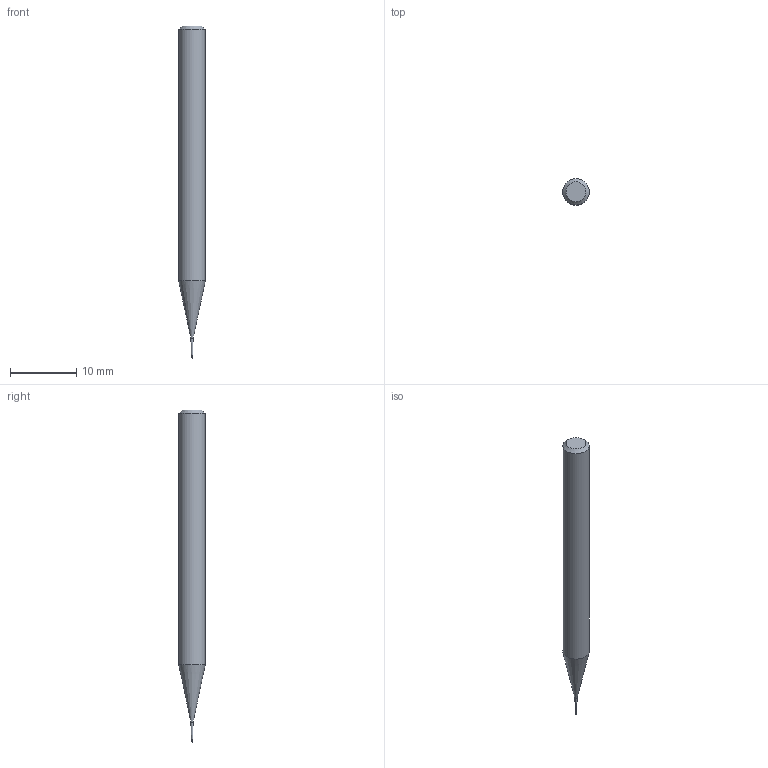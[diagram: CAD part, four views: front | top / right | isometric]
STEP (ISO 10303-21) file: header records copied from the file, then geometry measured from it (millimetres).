
FILE_DESCRIPTION((''),'2;1');
FILE_NAME('C:\Users\nsx150\AppData\Local\Temp\Mastercam 2021\SNAKH10GOD\TEMP.step','2021-10-21T13:30:37',(''),(''),'STEP Write','Mastercam 2021 ... CNC Software, Inc.','');
FILE_SCHEMA(('AUTOMOTIVE_DESIGN'));
Length unit declared in the file: millimetre
Products named in the file (1): None
Bounding box: 4 x 4 x 50 mm (x, y, z)
Volume: 520.5 mm3; surface area: 553.5 mm2
Topology: 2 solids, 2 shells, 10 faces, 16 edges, 9 vertices
Faces by surface type: plane 3, cylinder 3, cone 3, sphere 1
Full cylindrical faces by diameter (mm): 0.195 x1, 0.2 x1, 4 x1
Entity records: 232 total; most frequent: DIRECTION 40, CARTESIAN_POINT 28, AXIS2_PLACEMENT_3D 20, ORIENTED_EDGE 16, EDGE_LOOP 16, STYLED_ITEM 13, ADVANCED_FACE 10, FACE_BOUND 9
